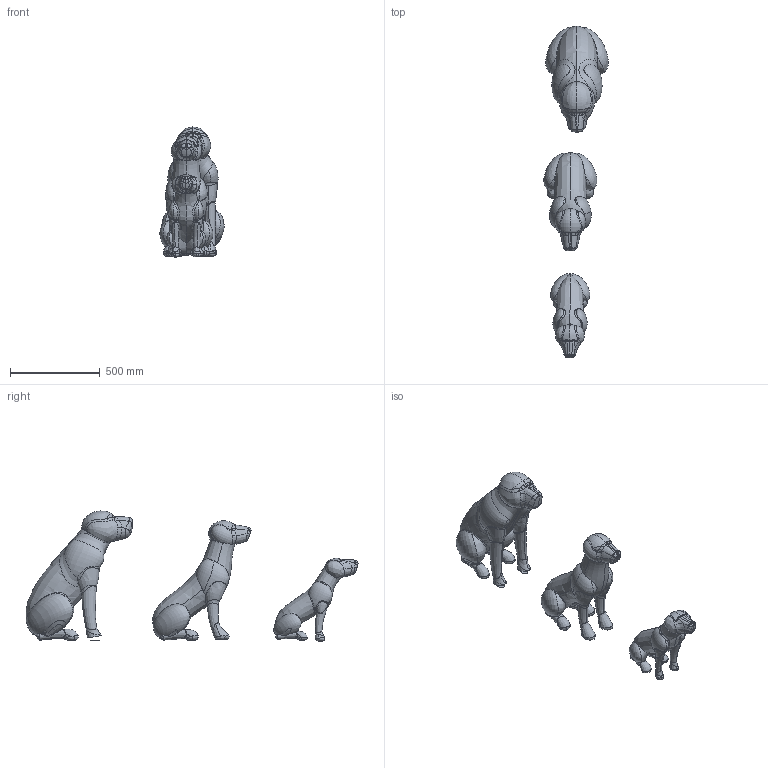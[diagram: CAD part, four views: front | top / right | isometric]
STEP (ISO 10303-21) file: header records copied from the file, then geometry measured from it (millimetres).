
FILE_DESCRIPTION(('STEP AP214'),'1');
FILE_NAME('small_medium_large dogs.stp','2020-11-18T11:49:33',(' '),(' '),'Spatial InterOp 3D',' ',' ');
FILE_SCHEMA(('AUTOMOTIVE_DESIGN { 1 0 10303 214 1 1 1 1 }'));
Length unit declared in the file: metre
Products named in the file (5): small_medium_large dogs; Final Large dog-02; Medium CT dog_solid; Small CT dog - solid; Final Small dog
Assembly tree (4 placements, depth 3):
  small_medium_large dogs
    Final Large dog-02
    Medium CT dog_solid
    Small CT dog - solid
      Final Small dog
Bounding box: 359.09 x 1851.9 x 725.51 mm (x, y, z)
Volume: 70010975.5 mm3; surface area: 2285159.3 mm2
Topology: 5 solids, 5 shells, 580 faces, 1654 edges, 1013 vertices
Faces by surface type: bspline 505, plane 55, extrusion 8, sphere 6, cylinder 6
Entity records: 225606 total; most frequent: CARTESIAN_POINT 210674, ORIENTED_EDGE 3158, EDGE_CURVE 1579, B_SPLINE_CURVE_WITH_KNOTS 1324, VERTEX_POINT 1013, STYLED_ITEM 585, PRESENTATION_STYLE_ASSIGNMENT 585, SURFACE_STYLE_USAGE 585
